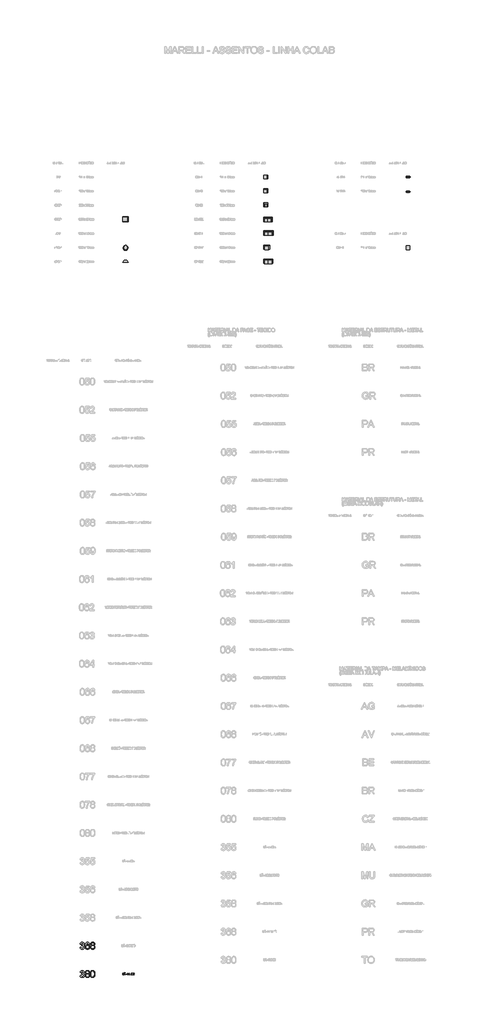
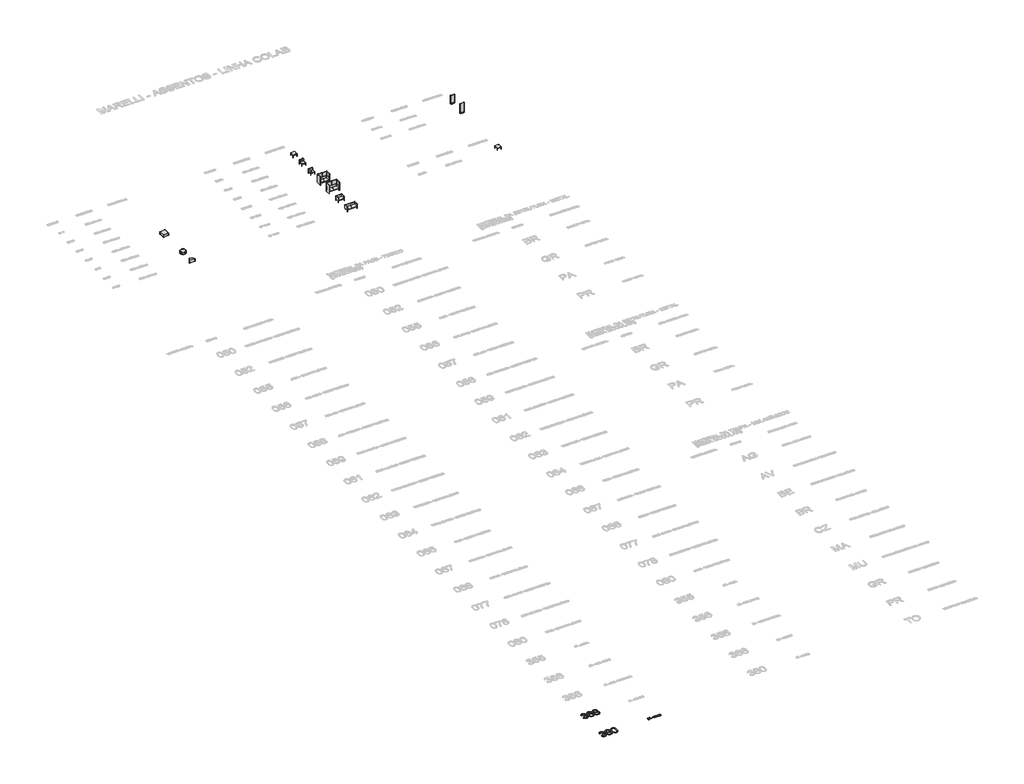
# One storey, part 1 of 67: 13 furniture elements, 3 proxies.
"""IFC4 building model written with IfcOpenShell, lengths in millimetres."""

from ifc_helpers import new_model, si_unit, origin, origin_with_axes, place, context, project, spatial, polyline, outline, extrude, transform, mapped, element, save
from components import furniture_c106df04, furniture_1e43df1f, furniture_dcf6a9ca, furniture_6dd9b92e, furniture_44890e2e, furniture_9de6bddc, furniture_e14ccfc3, furniture_0988fbb2, furniture_3d59b3a7, furniture_6b35aecf, furniture_aa8f4431, furniture_b8cf2368, furniture_f87f3754

model = new_model("IFC4")

# Units and contexts
model_context = context("Model", 3, world=origin())
ifc_project = project(units=[si_unit("LENGTHUNIT", "METRE", prefix="MILLI")], contexts=[model_context])

# Site, building, storey
site = spatial("IfcSite", under=ifc_project)
building = spatial("IfcBuilding", under=site)
storey = spatial("IfcBuildingStorey", under=building, Name="Marelli - Linha COLAB - Planta Baixa", Elevation=0.0)

# Proxies
placement = place(None, origin())
element("IfcBuildingElementProxy", 1, Name="1200mm Arial", ObjectType="1200mm Arial", at=placement, inside=storey, context=model_context, shape_type="SweptSolid", body=[
    extrude(outline(polyline([(-25181.1313792, -130168.6139517), (-25030.446914, -130149.7783935), (-25015.5384961, -130200.9691731), (-24996.712135, -130244.4712191), (-24973.9678307, -130280.2845313), (-24947.3055831, -130308.4091098), (-24916.1183869, -130329.6542951), (-24879.799237, -130344.8294274), (-24838.3481331, -130353.9345067), (-24791.7650755, -130356.9695332), (-24737.1713874, -130352.7940725), (-24688.4638113, -130340.2676906), (-24645.642347, -130319.3903874), (-24608.7069947, -130290.1621629), (-24578.9637354, -130254.7719149), (-24557.7185502, -130215.4085414), (-24544.971439, -130172.0720424), (-24540.722402, -130124.7624178), (-24544.9346508, -130079.7060705), (-24557.5713974, -130038.7148192), (-24578.6326416, -130001.7886639), (-24608.1183835, -129968.9276047), (-24644.0972426, -129941.9526574), (-24684.6378385, -129922.6848379), (-24729.7401711, -129911.1241462), (-24779.4042405, -129907.2705823), (-24827.0081706, -129911.3908606), (-24885.0599495, -129923.7516957), (-24868.2845305, -129773.0672304), (-24844.1514716, -129774.833064), (-24797.8167343, -129772.1291314), (-24753.87323, -129764.0173334), (-24712.3209587, -129750.49767), (-24673.1599203, -129731.5701414), (-24639.9401761, -129707.0324123), (-24616.2117874, -129676.6821477), (-24601.9747542, -129640.5193476), (-24597.2290765, -129598.5440119), (-24600.6687731, -129564.4689421), (-24610.9878631, -129533.465687), (-24628.1863464, -129505.5342465), (-24652.2642229, -129480.6746207), (-24681.768359, -129460.266367), (-24715.2456205, -129445.6890429), (-24752.6960076, -129436.9426485), (-24794.1195203, -129434.0271837), (-24835.4326683, -129436.9702397), (-24873.1405728, -129445.7994075), (-24907.2432338, -129460.5146873), (-24937.7406512, -129481.1160791), (-24963.878667, -129507.6035827), (-24984.903123, -129539.9771983), (-25000.8140193, -129578.2369258), (-25011.6113558, -129622.3827652), (-25162.2958211, -129603.5472071), (-25144.4351502, -129531.6078829), (-25117.9292524, -129468.2402092), (-25082.7781278, -129413.4441861), (-25038.9817763, -129367.2198134), (-24987.9197553, -129330.5235844), (-24930.9716225, -129304.3119922), (-24868.1373777, -129288.5850369), (-24799.417021, -129283.3427185), (-24751.0865239, -129285.9270895), (-24704.6874073, -129293.6802025), (-24660.2196711, -129306.6020576), (-24617.6833154, -129324.6926547), (-24578.5590652, -129347.2622151), (-24544.3276456, -129373.6209601), (-24514.9890564, -129403.7688896), (-24490.5432979, -129437.7060036), (-24471.2938725, -129474.0803359), (-24457.5442829, -129511.5399201), (-24449.2945291, -129550.0847561), (-24446.5446112, -129589.7148441), (-24449.1565734, -129626.9812902), (-24456.9924599, -129662.5554791), (-24470.0522707, -129696.4374109), (-24488.3360059, -129728.6270854), (-24511.7333008, -129758.3703447), (-24540.1337908, -129784.9130307), (-24573.537476, -129808.2551433), (-24611.9443563, -129828.3966825), (-24561.7284639, -129844.1052437), (-24517.6194127, -129866.5092572), (-24479.6172026, -129895.608723), (-24447.7218336, -129931.4036412), (-24422.4851288, -129973.0110948), (-24404.458911, -130019.5481672), (-24393.6431803, -130071.0148583), (-24390.0379368, -130127.4111682), (-24391.8405586, -130166.3882656), (-24397.2484239, -130203.8570468), (-24406.2615328, -130239.8175118), (-24418.8798852, -130274.2696607), (-24435.1034812, -130307.2134933), (-24454.9323207, -130338.6490098), (-24478.3664038, -130368.5762101), (-24505.4057305, -130396.9950943), (-24535.1995735, -130422.9307749), (-24566.897206, -130445.4083648), (-24600.4986277, -130464.427864), (-24636.0038388, -130479.9892724), (-24673.4128391, -130492.09259), (-24712.7256288, -130500.7378169), (-24753.9422079, -130505.924953), (-24797.0625762, -130507.6539984), (-24873.2877256, -130501.7494924), (-24908.8619146, -130494.3688599), (-24942.7438463, -130484.0359743), (-24974.9335209, -130470.7508358), (-25005.4309383, -130454.5134442), (-25034.2360985, -130435.3237996), (-25061.3490016, -130413.1819021), (-25086.2040289, -130388.6947568), (-25108.2355619, -130362.469369), (-25127.4436005, -130334.5057389), (-25143.8281449, -130304.8038663), (-25157.3891949, -130273.3637513), (-25168.1267507, -130240.1853938), (-25181.1313792, -130168.6139517)])), origin_with_axes(), (0.0, 0.0, 1.0), 10.0),
    extrude(outline(polyline([(-23485.9311454, -129603.5472071), (-23636.6156107, -129622.3827652), (-23647.6888587, -129582.0812927), (-23660.8958223, -129547.7027202), (-23676.2365015, -129519.2470479), (-23693.7108963, -129496.7142757), (-23726.102906, -129469.2886729), (-23762.063371, -129449.6989567), (-23801.5922914, -129437.9451269), (-23844.6896671, -129434.0271837), (-23880.2270679, -129436.3080521), (-23914.734399, -129443.1506572), (-23948.2116606, -129454.554999), (-23980.6588525, -129470.5210776), (-24010.2641561, -129496.6315022), (-24037.2758916, -129528.1681863), (-24061.694059, -129565.1311297), (-24083.5186584, -129607.5203326), (-24101.5908614, -129658.1316981), (-24114.7518398, -129719.7611293), (-24123.0015935, -129792.4086263), (-24126.3401226, -129876.0741891), (-24097.6177359, -129838.2099347), (-24065.8971108, -129805.5512106), (-24031.1782475, -129778.0980167), (-23993.461146, -129755.8503531), (-23953.7574816, -129738.6610669), (-23913.07893, -129726.3830053), (-23871.4254911, -129719.0161683), (-23828.7971649, -129716.560556), (-23791.8986008, -129718.2390176), (-23756.3979883, -129723.2744024), (-23722.2953273, -129731.6667104), (-23689.590618, -129743.4159416), (-23658.2838602, -129758.5220961), (-23628.375054, -129776.9851737), (-23599.8641993, -129798.8051745), (-23572.7512963, -129823.9820986), (-23547.9882395, -129851.81697), (-23526.5269236, -129881.6108131), (-23508.3673486, -129913.3636278), (-23493.5095145, -129947.0754142), (-23481.9534214, -129982.7461721), (-23473.6990691, -130020.3759017), (-23468.7464577, -130059.9646029), (-23467.0955873, -130101.5122757), (-23470.2041901, -130156.4462547), (-23479.5299987, -130209.4120649), (-23495.073013, -130260.4097065), (-23516.833233, -130309.4391794), (-23544.0381066, -130354.6702707), (-23575.9150814, -130394.2727675), (-23612.4641577, -130428.2466698), (-23653.6853352, -130456.5919775), (-23698.6956973, -130478.9316116), (-23746.6123272, -130494.8884932), (-23797.4352248, -130504.4626221), (-23851.1643902, -130507.6539984), (-23897.1657345, -130505.5386769), (-23940.9919764, -130499.1927125), (-23982.6431161, -130488.6161052), (-24022.1191534, -130473.8088549), (-24059.4200884, -130454.7709616), (-24094.5459212, -130431.5024254), (-24127.4966517, -130404.0032463), (-24158.2722798, -130372.2734242), (-24186.104852, -130335.6875598), (-24210.2264146, -130293.6202536), (-24230.6369675, -130246.0715057), (-24247.3365108, -130193.0413161), (-24260.3250445, -130134.5296848), (-24269.6025686, -130070.5366117), (-24275.169083, -130001.062097), (-24277.0245879, -129926.1061404), (-24274.9644487, -129842.1784618), (-24268.7840312, -129764.1828803), (-24258.4833353, -129692.1193959), (-24244.0623611, -129625.9880088), (-24225.5211085, -129565.7887188), (-24202.8595776, -129511.521526), (-24176.0777684, -129463.1864303), (-24145.1756808, -129420.7834319), (-24115.1611085, -129388.5707647), (-24082.6541357, -129360.6531198), (-24047.6547624, -129337.0304971), (-24010.1629886, -129317.7028968), (-23970.1788142, -129302.6703188), (-23927.7022393, -129291.9327631), (-23882.733264, -129285.4902296), (-23835.271888, -129283.3427185), (-23765.8709497, -129288.6586133), (-23703.055099, -129304.6062978), (-23646.824336, -129331.1857719), (-23597.1786608, -129368.3970358), (-23555.4608425, -129414.9892904), (-23523.0136505, -129469.7117372), (-23499.8370848, -129532.5643761), (-23485.9311454, -129603.5472071)]), holes=[polyline([(-24126.3401226, -130099.157831), (-24124.1604218, -130132.9202011), (-24117.6213193, -130165.9284131), (-24106.7228152, -130198.182467), (-24091.4649095, -130229.6823629), (-24072.5925631, -130258.9473756), (-24050.8507372, -130284.4967801), (-24026.2394317, -130306.3305766), (-23998.7586467, -130324.4487648), (-23968.5831261, -130338.676601), (-23935.8876137, -130348.8393411), (-23900.6721097, -130354.9369852), (-23862.9366141, -130356.9695332), (-23810.559415, -130352.7572843), (-23763.4981108, -130340.1205378), (-23721.7527014, -130319.0592936), (-23685.3231868, -130289.5735517), (-23655.7730656, -130252.8589286), (-23634.6658361, -130210.1110407), (-23622.0014984, -130161.3298882), (-23617.7800525, -130106.5154709), (-23621.9463161, -130053.8439662), (-23634.4451069, -130007.0769676), (-23655.2764249, -129966.214475), (-23684.44027, -129931.2564884), (-23720.9801492, -129903.2514715), (-23763.9395692, -129883.247888), (-23813.31853, -129871.2457379), (-23869.1170316, -129867.2450212), (-23920.7952549, -129871.2457379), (-23968.4083821, -129883.247888), (-24011.9564133, -129903.2514715), (-24051.4393484, -129931.2564884), (-24084.2084371, -129965.7546225), (-24107.6149291, -130005.2375576), (-24121.6588242, -130049.7052938), (-24126.3401226, -130099.157831)])]), origin_with_axes(), (0.0, 0.0, 1.0), 10.0),
    extrude(outline(polyline([(-23115.6947055, -129824.8650154), (-23159.0404016, -129806.7652212), (-23196.371227, -129785.1337599), (-23227.6871819, -129759.9706314), (-23252.9882661, -129731.2758358), (-23272.4952089, -129699.3252845), (-23286.4287394, -129664.3948891), (-23294.7888578, -129626.4846495), (-23297.5755639, -129585.5945657), (-23291.505511, -129524.1398784), (-23283.9179448, -129495.3301197), (-23273.2953522, -129467.7987509), (-23259.6377331, -129441.545772), (-23242.9450876, -129416.571183), (-23200.4547172, -129370.4571749), (-23175.1674285, -129350.0397242), (-23147.865986, -129332.3446002), (-23118.5503895, -129317.371803), (-23087.2206391, -129305.1213326), (-23018.5186765, -129288.787372), (-22941.7600982, -129283.3427185), (-22864.6336379, -129288.9161307), (-22795.4166405, -129305.6363674), (-22763.7741904, -129318.1765449), (-22734.109106, -129333.5034285), (-22706.4213873, -129351.6170182), (-22680.7110344, -129372.5173141), (-22637.4481118, -129419.5326331), (-22620.4519636, -129444.8613085), (-22606.5460242, -129471.4039944), (-22595.7302935, -129499.1606909), (-22588.0047716, -129528.1313981), (-22583.3694585, -129558.3161158), (-22581.8243541, -129589.7148441), (-22584.574272, -129629.160991), (-22592.8240257, -129665.9767817), (-22606.5736153, -129700.1622161), (-22625.8230407, -129731.7172942), (-22650.6642724, -129760.2189518), (-22681.189281, -129785.2441245), (-22717.3980664, -129806.7928124), (-22759.2906286, -129824.8650154), (-22709.764515, -129845.9354566), (-22666.5475776, -129872.6528865), (-22629.6398164, -129905.0173051), (-22599.0412315, -129943.0287122), (-22575.0277342, -129985.8409794), (-22557.8752362, -130032.607978), (-22547.5837374, -130083.3297081), (-22544.1532378, -130138.0061697), (-22545.854692, -130176.3670647), (-22550.9590547, -130213.1644613), (-22559.4663258, -130248.3983594), (-22571.3765054, -130282.068759), (-22586.6895935, -130314.1756601), (-22605.40559, -130344.7190628), (-22627.5244949, -130373.6989669), (-22653.0463083, -130401.1153726), (-22681.3456308, -130426.085363), (-22711.797063, -130447.7260214), (-22744.4006048, -130466.0373477), (-22779.1562563, -130481.019342), (-22816.0640175, -130492.6720042), (-22855.1238883, -130500.9953343), (-22896.3358688, -130505.9893324), (-22939.699959, -130507.6539984), (-22983.0640492, -130505.9824346), (-23024.2760297, -130500.9677432), (-23063.3359005, -130492.6099241), (-23100.2436617, -130480.9089774), (-23134.9993132, -130465.864903), (-23167.602855, -130447.4777011), (-23198.0542872, -130425.7473715), (-23226.3536096, -130400.6739142), (-23251.875423, -130373.1034579), (-23273.994328, -130343.8821312), (-23292.7103245, -130313.009934), (-23308.0234126, -130280.4868664), (-23319.9335922, -130246.3129283), (-23328.4408633, -130210.4881198), (-23333.545226, -130173.0124408), (-23335.2466802, -130133.8858913), (-23331.6782249, -130076.7170293), (-23320.9728588, -130024.4042096), (-23303.130582, -129976.9474322), (-23278.1513946, -129934.3466971), (-23246.5871194, -129897.3745566), (-23208.9895795, -129866.8035628), (-23165.3587748, -129842.6337157), (-23115.6947055, -129824.8650154)]), holes=[polyline([(-23146.8910987, -129590.0091496), (-23143.5525696, -129624.553269), (-23133.5369822, -129655.7864504), (-23116.8443367, -129683.7086938), (-23093.474633, -129708.3199993), (-23063.7221766, -129728.4063562), (-23027.8812732, -129742.753754), (-22985.9519228, -129751.3621927), (-22937.9341254, -129754.2316723), (-22891.1027474, -129751.3805868), (-22850.083905, -129742.8273304), (-22814.877598, -129728.5719031), (-22785.4838266, -129708.6143049), (-22762.3072609, -129684.5180342), (-22745.7525711, -129657.8465896), (-22735.8197573, -129628.5999709), (-22732.5088193, -129596.7781784), (-22735.9301219, -129563.714784), (-22746.1940295, -129533.3921106), (-22763.3005423, -129505.810158), (-22787.2496602, -129480.9689263), (-22817.3056192, -129460.4319139), (-22852.7326553, -129445.7626193), (-22893.5307686, -129436.9610426), (-22939.699959, -129434.0271837), (-22986.2278343, -129436.8966633), (-23027.2190856, -129445.5051019), (-23062.6737129, -129459.8524998), (-23092.5917162, -129479.9388567), (-23116.347696, -129504.0351274), (-23133.3162531, -129530.4122664), (-23143.4973873, -129559.0702739), (-23146.8910987, -129590.0091496)]), polyline([(-23184.562215, -130128.5883906), (-23182.9895195, -130157.6418712), (-23178.2714329, -130186.2354992), (-23159.3990865, -130242.0431979), (-23144.3986982, -130267.9328933), (-23124.5606616, -130290.7139859), (-23099.8849767, -130310.3864756), (-23070.3716437, -130326.9503624), (-23038.1819691, -130340.0837496), (-23005.4772597, -130349.4647405), (-22972.2575156, -130355.093335), (-22938.5227366, -130356.9695332), (-22884.0394131, -130353.0239988), (-22835.9572364, -130341.1873956), (-22794.2762063, -130321.4597236), (-22758.996323, -130293.8409828), (-22730.9269267, -130260.133795), (-22710.877358, -130222.140782), (-22698.8476167, -130179.8619437), (-22694.837703, -130133.2972801), (-22698.9763754, -130085.9876555), (-22711.3923928, -130042.9454621), (-22732.085755, -130004.1706998), (-22761.0564621, -129969.6633687), (-22797.2928387, -129941.336455), (-22839.7832091, -129921.1029453), (-22888.5275735, -129908.9628395), (-22943.5259317, -129904.9161375), (-22997.2091119, -129908.9076572), (-23044.6566922, -129920.8822161), (-23085.8686727, -129940.8398143), (-23120.8450534, -129968.7804519), (-23148.7213116, -130002.7175659), (-23168.6329246, -130040.6645937), (-23180.5798924, -130082.6215353), (-23184.562215, -130128.5883906)])]), origin_with_axes(), (0.0, 0.0, 1.0), 10.0),
])
element("IfcBuildingElementProxy", 2, Name="1200mm Arial", ObjectType="1200mm Arial", at=placement, inside=storey, context=model_context, shape_type="SweptSolid", body=[
    extrude(outline(polyline([(-25181.1313792, -135168.6139517), (-25030.446914, -135149.7783935), (-25015.5384961, -135200.9691731), (-24996.712135, -135244.4712191), (-24973.9678307, -135280.2845313), (-24947.3055831, -135308.4091098), (-24916.1183869, -135329.6542951), (-24879.799237, -135344.8294274), (-24838.3481331, -135353.9345067), (-24791.7650755, -135356.9695332), (-24737.1713874, -135352.7940725), (-24688.4638113, -135340.2676906), (-24645.642347, -135319.3903874), (-24608.7069947, -135290.1621629), (-24578.9637354, -135254.7719149), (-24557.7185502, -135215.4085414), (-24544.971439, -135172.0720424), (-24540.722402, -135124.7624178), (-24544.9346508, -135079.7060705), (-24557.5713974, -135038.7148192), (-24578.6326416, -135001.7886639), (-24608.1183835, -134968.9276047), (-24644.0972426, -134941.9526574), (-24684.6378385, -134922.6848379), (-24729.7401711, -134911.1241462), (-24779.4042405, -134907.2705823), (-24827.0081706, -134911.3908606), (-24885.0599495, -134923.7516957), (-24868.2845305, -134773.0672304), (-24844.1514716, -134774.833064), (-24797.8167343, -134772.1291314), (-24753.87323, -134764.0173334), (-24712.3209587, -134750.49767), (-24673.1599203, -134731.5701414), (-24639.9401761, -134707.0324123), (-24616.2117874, -134676.6821477), (-24601.9747542, -134640.5193476), (-24597.2290765, -134598.5440119), (-24600.6687731, -134564.4689421), (-24610.9878631, -134533.465687), (-24628.1863464, -134505.5342465), (-24652.2642229, -134480.6746207), (-24681.768359, -134460.266367), (-24715.2456205, -134445.6890429), (-24752.6960076, -134436.9426485), (-24794.1195203, -134434.0271837), (-24835.4326683, -134436.9702397), (-24873.1405728, -134445.7994075), (-24907.2432338, -134460.5146873), (-24937.7406512, -134481.1160791), (-24963.878667, -134507.6035827), (-24984.903123, -134539.9771983), (-25000.8140193, -134578.2369258), (-25011.6113558, -134622.3827652), (-25162.2958211, -134603.5472071), (-25144.4351502, -134531.6078829), (-25117.9292524, -134468.2402092), (-25082.7781278, -134413.4441861), (-25038.9817763, -134367.2198134), (-24987.9197553, -134330.5235844), (-24930.9716225, -134304.3119922), (-24868.1373777, -134288.5850369), (-24799.417021, -134283.3427185), (-24751.0865239, -134285.9270895), (-24704.6874073, -134293.6802025), (-24660.2196711, -134306.6020576), (-24617.6833154, -134324.6926547), (-24578.5590652, -134347.2622151), (-24544.3276456, -134373.6209601), (-24514.9890564, -134403.7688896), (-24490.5432979, -134437.7060036), (-24471.2938725, -134474.0803359), (-24457.5442829, -134511.5399201), (-24449.2945291, -134550.0847561), (-24446.5446112, -134589.7148441), (-24449.1565734, -134626.9812902), (-24456.9924599, -134662.5554791), (-24470.0522707, -134696.4374109), (-24488.3360059, -134728.6270854), (-24511.7333008, -134758.3703447), (-24540.1337908, -134784.9130307), (-24573.537476, -134808.2551433), (-24611.9443563, -134828.3966825), (-24561.7284639, -134844.1052437), (-24517.6194127, -134866.5092572), (-24479.6172026, -134895.608723), (-24447.7218336, -134931.4036412), (-24422.4851288, -134973.0110948), (-24404.458911, -135019.5481672), (-24393.6431803, -135071.0148583), (-24390.0379368, -135127.4111682), (-24391.8405586, -135166.3882656), (-24397.2484239, -135203.8570468), (-24406.2615328, -135239.8175118), (-24418.8798852, -135274.2696607), (-24435.1034812, -135307.2134933), (-24454.9323207, -135338.6490098), (-24478.3664038, -135368.5762101), (-24505.4057305, -135396.9950943), (-24535.1995735, -135422.9307749), (-24566.897206, -135445.4083648), (-24600.4986277, -135464.427864), (-24636.0038388, -135479.9892724), (-24673.4128391, -135492.09259), (-24712.7256288, -135500.7378169), (-24753.9422079, -135505.924953), (-24797.0625762, -135507.6539984), (-24873.2877256, -135501.7494924), (-24908.8619146, -135494.3688599), (-24942.7438463, -135484.0359743), (-24974.9335209, -135470.7508358), (-25005.4309383, -135454.5134442), (-25034.2360985, -135435.3237996), (-25061.3490016, -135413.1819021), (-25086.2040289, -135388.6947568), (-25108.2355619, -135362.469369), (-25127.4436005, -135334.5057389), (-25143.8281449, -135304.8038663), (-25157.3891949, -135273.3637513), (-25168.1267507, -135240.1853938), (-25181.1313792, -135168.6139517)])), origin_with_axes(), (0.0, 0.0, 1.0), 10.0),
    extrude(outline(polyline([(-24038.637055, -134824.8650154), (-24081.9827511, -134806.7652212), (-24119.3135765, -134785.1337599), (-24150.6295314, -134759.9706314), (-24175.9306156, -134731.2758358), (-24195.4375584, -134699.3252845), (-24209.3710889, -134664.3948891), (-24217.7312073, -134626.4846495), (-24220.5179134, -134585.5945657), (-24214.4478605, -134524.1398784), (-24206.8602943, -134495.3301197), (-24196.2377017, -134467.7987509), (-24182.5800826, -134441.545772), (-24165.8874371, -134416.571183), (-24123.3970667, -134370.4571749), (-24098.109778, -134350.0397242), (-24070.8083355, -134332.3446002), (-24041.492739, -134317.371803), (-24010.1629886, -134305.1213326), (-23941.461026, -134288.787372), (-23864.7024477, -134283.3427185), (-23787.5759874, -134288.9161307), (-23718.35899, -134305.6363674), (-23686.7165399, -134318.1765449), (-23657.0514555, -134333.5034285), (-23629.3637368, -134351.6170182), (-23603.6533839, -134372.5173141), (-23560.3904613, -134419.5326331), (-23543.3943131, -134444.8613085), (-23529.4883737, -134471.4039944), (-23518.672643, -134499.1606909), (-23510.9471211, -134528.1313981), (-23506.311808, -134558.3161158), (-23504.7667036, -134589.7148441), (-23507.5166215, -134629.160991), (-23515.7663752, -134665.9767817), (-23529.5159648, -134700.1622161), (-23548.7653902, -134731.7172942), (-23573.6066219, -134760.2189518), (-23604.1316305, -134785.2441245), (-23640.3404159, -134806.7928124), (-23682.2329781, -134824.8650154), (-23632.7068645, -134845.9354566), (-23589.4899271, -134872.6528865), (-23552.5821659, -134905.0173051), (-23521.983581, -134943.0287122), (-23497.9700837, -134985.8409794), (-23480.8175857, -135032.607978), (-23470.5260869, -135083.3297081), (-23467.0955873, -135138.0061697), (-23468.7970415, -135176.3670647), (-23473.9014042, -135213.1644613), (-23482.4086753, -135248.3983594), (-23494.3188549, -135282.068759), (-23509.631943, -135314.1756601), (-23528.3479395, -135344.7190628), (-23550.4668444, -135373.6989669), (-23575.9886578, -135401.1153726), (-23604.2879803, -135426.085363), (-23634.7394125, -135447.7260214), (-23667.3429543, -135466.0373477), (-23702.0986058, -135481.019342), (-23739.006367, -135492.6720042), (-23778.0662378, -135500.9953343), (-23819.2782183, -135505.9893324), (-23862.6423085, -135507.6539984), (-23906.0063987, -135505.9824346), (-23947.2183792, -135500.9677432), (-23986.27825, -135492.6099241), (-24023.1860112, -135480.9089774), (-24057.9416627, -135465.864903), (-24090.5452045, -135447.4777011), (-24120.9966367, -135425.7473715), (-24149.2959591, -135400.6739142), (-24174.8177725, -135373.1034579), (-24196.9366775, -135343.8821312), (-24215.652674, -135313.009934), (-24230.9657621, -135280.4868664), (-24242.8759417, -135246.3129283), (-24251.3832128, -135210.4881198), (-24256.4875755, -135173.0124408), (-24258.1890297, -135133.8858913), (-24254.6205744, -135076.7170293), (-24243.9152083, -135024.4042096), (-24226.0729315, -134976.9474322), (-24201.0937441, -134934.3466971), (-24169.5294689, -134897.3745566), (-24131.931929, -134866.8035628), (-24088.3011243, -134842.6337157), (-24038.637055, -134824.8650154)]), holes=[polyline([(-24069.8334482, -134590.0091496), (-24066.4949191, -134624.553269), (-24056.4793317, -134655.7864504), (-24039.7866862, -134683.7086938), (-24016.4169825, -134708.3199993), (-23986.6645261, -134728.4063562), (-23950.8236227, -134742.753754), (-23908.8942723, -134751.3621927), (-23860.8764749, -134754.2316723), (-23814.0450969, -134751.3805868), (-23773.0262545, -134742.8273304), (-23737.8199475, -134728.5719031), (-23708.4261761, -134708.6143049), (-23685.2496104, -134684.5180342), (-23668.6949206, -134657.8465896), (-23658.7621068, -134628.5999709), (-23655.4511688, -134596.7781784), (-23658.8724714, -134563.714784), (-23669.136379, -134533.3921106), (-23686.2428918, -134505.810158), (-23710.1920097, -134480.9689263), (-23740.2479687, -134460.4319139), (-23775.6750048, -134445.7626193), (-23816.4731181, -134436.9610426), (-23862.6423085, -134434.0271837), (-23909.1701838, -134436.8966633), (-23950.1614351, -134445.5051019), (-23985.6160624, -134459.8524998), (-24015.5340657, -134479.9388567), (-24039.2900455, -134504.0351274), (-24056.2586026, -134530.4122664), (-24066.4397368, -134559.0702739), (-24069.8334482, -134590.0091496)]), polyline([(-24107.5045645, -135128.5883906), (-24105.931869, -135157.6418712), (-24101.2137824, -135186.2354992), (-24082.341436, -135242.0431979), (-24067.3410477, -135267.9328933), (-24047.5030111, -135290.7139859), (-24022.8273262, -135310.3864756), (-23993.3139932, -135326.9503624), (-23961.1243186, -135340.0837496), (-23928.4196092, -135349.4647405), (-23895.1998651, -135355.093335), (-23861.4650861, -135356.9695332), (-23806.9817626, -135353.0239988), (-23758.8995859, -135341.1873956), (-23717.2185558, -135321.4597236), (-23681.9386725, -135293.8409828), (-23653.8692762, -135260.133795), (-23633.8197075, -135222.140782), (-23621.7899662, -135179.8619437), (-23617.7800525, -135133.2972801), (-23621.9187249, -135085.9876555), (-23634.3347423, -135042.9454621), (-23655.0281045, -135004.1706998), (-23683.9988116, -134969.6633687), (-23720.2351882, -134941.336455), (-23762.7255586, -134921.1029453), (-23811.469923, -134908.9628395), (-23866.4682812, -134904.9161375), (-23920.1514614, -134908.9076572), (-23967.5990417, -134920.8822161), (-24008.8110222, -134940.8398143), (-24043.7874029, -134968.7804519), (-24071.6636611, -135002.7175659), (-24091.5752741, -135040.6645937), (-24103.5222419, -135082.6215353), (-24107.5045645, -135128.5883906)])]), origin_with_axes(), (0.0, 0.0, 1.0), 10.0),
    extrude(outline(polyline([(-23335.2466802, -134895.792664), (-23332.4783682, -134794.4319773), (-23324.1734322, -134702.8385576), (-23310.3318721, -134621.0124048), (-23290.953688, -134548.953519), (-23266.1216533, -134486.073289), (-23235.9185415, -134431.7831035), (-23200.3443526, -134386.0829627), (-23159.3990865, -134348.9728664), (-23112.9447876, -134320.2596767), (-23060.8435, -134299.7502555), (-23003.0952238, -134287.4446027), (-22939.699959, -134283.3427185), (-22892.0592406, -134285.7707396), (-22846.8465434, -134293.0548031), (-22804.0618674, -134305.194909), (-22763.7052125, -134322.1910572), (-22726.7514661, -134343.7581391), (-22694.1755154, -134369.6110463), (-22665.9773605, -134399.7497788), (-22642.1570013, -134434.1743365), (-22621.5188214, -134472.7467637), (-22602.8672042, -134515.3291046), (-22571.5236582, -134612.5235278), (-22559.5490993, -134669.6831928), (-22550.9958429, -134735.9479371), (-22545.8638891, -134811.3177609), (-22544.1532378, -134895.792664), (-22546.8939586, -134996.5095573), (-22555.1161212, -135087.6431245), (-22568.8197256, -135169.1933658), (-22588.0047716, -135241.1602811), (-22612.6436682, -135304.0681023), (-22642.7088243, -135358.4410612), (-22678.2002398, -135404.2791578), (-22719.1179147, -135441.5823921), (-22765.6273959, -135470.4887199), (-22817.8942304, -135491.1360968), (-22875.9184181, -135503.524523), (-22939.699959, -135507.6539984), (-22982.3742704, -135505.8605737), (-23022.6941371, -135500.4802995), (-23060.659559, -135491.5131759), (-23096.2705361, -135478.9592028), (-23129.5270685, -135462.8183803), (-23160.4291561, -135443.0907083), (-23188.9767989, -135419.7761868), (-23215.169997, -135392.8748159), (-23243.3129696, -135350.2786794), (-23267.7035459, -135302.0999336), (-23288.3417258, -135248.3385785), (-23305.2275094, -135188.9946142), (-23318.3608966, -135124.0680406), (-23327.7418875, -135053.5588577), (-23333.370482, -134977.4670655), (-23335.2466802, -134895.792664)]), holes=[polyline([(-23184.562215, -134895.4983584), (-23180.147631, -135026.4919399), (-23166.9038792, -135132.5247279), (-23156.9710653, -135176.1808245), (-23144.8309595, -135213.5967226), (-23130.4835617, -135244.7724225), (-23113.9288719, -135269.7079239), (-23076.5520612, -135307.884878), (-23035.0549721, -135335.1541309), (-22989.4376047, -135351.5156826), (-22939.699959, -135356.9695332), (-22889.9623132, -135351.4972885), (-22844.3449458, -135335.0805545), (-22802.8478568, -135307.7193311), (-22765.4710461, -135269.4136183), (-22748.9163563, -135244.418336), (-22734.5689585, -135213.2104465), (-22722.4288526, -135175.7899498), (-22712.4960388, -135132.1568459), (-22699.2522869, -135026.2528166), (-22694.837703, -134895.4983584), (-22699.1051341, -134767.9720648), (-22711.9074276, -134663.8062779), (-22721.5091477, -134620.4835744), (-22733.2445833, -134583.0009976), (-22747.1137345, -134551.3585475), (-22763.1166013, -134525.5562241), (-22799.8680126, -134485.5122689), (-22841.8433483, -134456.9094438), (-22889.0426083, -134439.7477487), (-22941.4657926, -134434.0271837), (-22990.9459209, -134439.067167), (-23035.7907361, -134454.187117), (-23076.0002382, -134479.3870337), (-23111.5744271, -134514.666917), (-23128.6809399, -134543.2145599), (-23143.5065843, -134577.2068562), (-23156.0513604, -134616.6438061), (-23166.315268, -134661.5254095), (-23180.0004782, -134767.6225769), (-23184.562215, -134895.4983584)])]), origin_with_axes(), (0.0, 0.0, 1.0), 10.0),
])
element("IfcBuildingElementProxy", 3, Name="300mm Arial", ObjectType="300mm Arial", at=placement, inside=storey, context=model_context, shape_type="SweptSolid", body=[
    extrude(outline(polyline([(-17598.7258123, -135030.5663201), (-17598.7258123, -134729.1973896), (-17561.054696, -134729.1973896), (-17561.054696, -134992.8952038), (-17410.3702308, -134992.8952038), (-17410.3702308, -135030.5663201), (-17598.7258123, -135030.5663201)])), origin_with_axes(), (0.0, 0.0, 1.0), 10.0),
    extrude(outline(polyline([(-17325.6102191, -134710.3618315), (-17322.7591336, -134687.2036599), (-17313.9115716, -134669.2326244), (-17300.5758493, -134657.6995239), (-17283.9659772, -134653.855157), (-17270.0600378, -134656.8901835), (-17253.7996536, -134665.9952628), (-17238.569339, -134672.6907152), (-17230.5862997, -134668.9015306), (-17226.7235388, -134653.855157), (-17193.761312, -134653.855157), (-17197.0446588, -134678.5768271), (-17205.7174768, -134696.2351629), (-17218.6209378, -134706.8301643), (-17234.5962135, -134710.3618315), (-17248.5941234, -134707.4923519), (-17264.3946551, -134698.8839132), (-17280.2871573, -134691.5262733), (-17289.2634779, -134696.3087393), (-17292.6479923, -134710.3618315), (-17325.6102191, -134710.3618315)])), origin_with_axes(), (0.0, 0.0, 1.0), 10.0),
    extrude(outline(polyline([(-17403.0861672, -135030.5663201), (-17282.7887548, -134729.1973896), (-17250.7094448, -134729.1973896), (-17130.4120324, -135030.5663201), (-17170.2168643, -135030.5663201), (-17204.7241955, -134936.3885293), (-17328.8475806, -134936.3885293), (-17363.2813354, -135030.5663201), (-17403.0861672, -135030.5663201)]), holes=[polyline([(-17315.0152176, -134898.717413), (-17218.4829821, -134898.717413), (-17245.6326733, -134824.6259792), (-17266.7490998, -134766.8685059), (-17285.5110816, -134818.1512561), (-17315.0152176, -134898.717413)])]), origin_with_axes(), (0.0, 0.0, 1.0), 10.0),
    extrude(outline(polyline([(-16995.9879514, -134941.0974188), (-16995.9879514, -134903.4263025), (-16878.2657129, -134903.4263025), (-16878.2657129, -134941.0974188), (-16995.9879514, -134941.0974188)])), origin_with_axes(), (0.0, 0.0, 1.0), 10.0),
    extrude(outline(polyline([(-16713.4545791, -135030.5663201), (-16713.4545791, -134729.1973896), (-16583.5922348, -134729.1973896), (-16548.6894305, -134731.2299376), (-16523.2963758, -134737.3275817), (-16504.7367291, -134748.5847708), (-16490.334149, -134766.0959537), (-16481.0911139, -134787.8101885), (-16478.0101022, -134811.6765329), (-16483.1144649, -134841.3646099), (-16498.4275529, -134865.9759154), (-16510.0273321, -134876.0052983), (-16524.4092188, -134884.0205273), (-16561.5193151, -134894.0085235), (-16540.108583, -134910.1217548), (-16509.5743774, -134948.8965171), (-16459.3216968, -135030.5663201), (-16503.0996542, -135030.5663201), (-16542.3158749, -134968.0999573), (-16570.6427886, -134926.750021), (-16590.5452045, -134907.2154871), (-16608.4610577, -134900.0417882), (-16630.3132482, -134898.717413), (-16675.7834628, -134898.717413), (-16675.7834628, -135030.5663201), (-16713.4545791, -135030.5663201)]), holes=[polyline([(-16675.7834628, -134861.0462967), (-16591.4649095, -134861.0462967), (-16567.2490772, -134859.7127245), (-16548.4595043, -134855.7120078), (-16534.3144415, -134848.7774322), (-16524.0321398, -134838.6422832), (-16517.7689488, -134826.3826157), (-16515.6812185, -134813.0744845), (-16519.6635411, -134794.6987789), (-16531.6105089, -134779.8915286), (-16552.1659154, -134770.1242616), (-16581.973554, -134766.8685059), (-16675.7834628, -134766.8685059), (-16675.7834628, -134861.0462967)])]), origin_with_axes(), (0.0, 0.0, 1.0), 10.0),
    extrude(outline(polyline([(-16426.2123173, -134883.8549804), (-16423.7015226, -134848.5061192), (-16416.1691388, -134817.213157), (-16403.6151657, -134789.9760937), (-16386.0396034, -134766.7949295), (-16364.495514, -134748.2858666), (-16340.0359599, -134735.0651074), (-16312.6609409, -134727.1326519), (-16282.3704571, -134724.4885001), (-16242.8415368, -134729.454907), (-16207.3961065, -134744.3541278), (-16177.9655469, -134768.1376988), (-16156.4812384, -134799.7571563), (-16143.3478512, -134837.68579), (-16138.9700554, -134880.3968896), (-16143.5777774, -134923.6782064), (-16157.4009434, -134962.140269), (-16179.6761982, -134993.8149087), (-16209.6401867, -135016.733957), (-16244.7821143, -135030.6398965), (-16282.5911863, -135035.2752096), (-16322.727112, -135030.1524528), (-16358.3748773, -135014.7841825), (-16387.7318606, -134990.5591531), (-16408.9954399, -134958.8661192), (-16421.9080979, -134922.3998164), (-16426.2123173, -134883.8549804)]), holes=[polyline([(-16388.541201, -134884.2228624), (-16386.658105, -134909.1974513), (-16381.0088171, -134931.3669401), (-16371.5933373, -134950.7313286), (-16358.4116655, -134967.2906169), (-16342.3881054, -134980.5527628), (-16324.4469603, -134990.0257242), (-16304.5882304, -134995.709501), (-16282.8119155, -134997.6040933), (-16260.6631202, -134995.6911069), (-16240.5698654, -134989.9521478), (-16222.5321514, -134980.3872159), (-16206.5499779, -134966.9963113), (-16193.4648752, -134950.0875351), (-16184.1183733, -134929.9689885), (-16178.5104721, -134906.6406715), (-16176.6411717, -134880.102584), (-16179.8417451, -134846.7540812), (-16189.4434652, -134817.9305269), (-16205.1980116, -134794.358488), (-16226.8570641, -134776.7645316), (-16252.9858828, -134765.8108452), (-16282.1497279, -134762.1596164), (-16303.1695854, -134763.9185522), (-16322.6719297, -134769.1953595), (-16340.6567608, -134777.9900385), (-16357.1240786, -134790.302589), (-16370.8690696, -134806.7262208), (-16380.6869204, -134827.8541437), (-16386.5776308, -134853.6863575), (-16388.541201, -134884.2228624)])]), origin_with_axes(), (0.0, 0.0, 1.0), 10.0),
    extrude(outline(polyline([(-16101.2989391, -134926.9707502), (-16063.6278228, -134926.9707502), (-16059.3052094, -134947.8756446), (-16051.487717, -134964.6786547), (-16039.2924288, -134978.0143771), (-16021.8364282, -134988.517408), (-16000.4992724, -134995.332422), (-15976.6605192, -134997.6040933), (-15955.6728513, -134995.884245), (-15937.2971457, -134990.7247), (-15922.4071219, -134982.5577197), (-15911.8764998, -134971.8155654), (-15905.6133088, -134959.4823216), (-15903.5255785, -134946.5420724), (-15905.089077, -134933.932917), (-15909.7795724, -134923.0344129), (-15919.3077161, -134913.7361954), (-15935.3841593, -134905.9279001), (-15990.2353648, -134891.5437141), (-16026.2418151, -134882.0247675), (-16049.280425, -134872.9656733), (-16068.0332097, -134860.2921386), (-16081.3229468, -134844.9330653), (-16089.2416067, -134827.2195472), (-16091.88116, -134807.4826782), (-16088.6162073, -134785.4189555), (-16078.8213492, -134764.845155), (-16062.7541031, -134747.4075484), (-16040.6719863, -134734.7524077), (-16014.1660886, -134727.054477), (-15984.8274994, -134724.4885001), (-15953.0424951, -134727.1740386), (-15925.2306162, -134735.2306543), (-15902.3851443, -134748.4928003), (-15885.4993607, -134766.7949295), (-15874.8123888, -134788.9966079), (-15870.5633517, -134813.9574013), (-15908.234468, -134813.9574013), (-15915.1506496, -134791.4798114), (-15929.5716238, -134775.2562154), (-15952.104396, -134765.4337661), (-15983.3559715, -134762.1596164), (-16015.3433109, -134765.3969779), (-16037.287472, -134775.1090626), (-16049.9794008, -134789.4012781), (-16054.2100437, -134806.3790322), (-16051.2118055, -134820.8551887), (-16042.2170907, -134832.4986539), (-16020.9535114, -134842.9097143), (-15980.7072211, -134853.541504), (-15939.1733438, -134863.6398648), (-15914.0470036, -134872.4506385), (-15892.5718921, -134886.1174547), (-15877.5898978, -134902.9848441), (-15868.7883211, -134922.868866), (-15865.8544622, -134945.5855792), (-15869.2297795, -134968.8081301), (-15879.3557314, -134990.6511236), (-15895.8184507, -135009.4498935), (-15918.2040701, -135023.539774), (-15945.1238351, -135032.3413507), (-15975.1889912, -135035.2752096), (-16012.0967523, -135032.1114244), (-16042.4746081, -135022.620069), (-16066.6720463, -135006.764355), (-16085.0385549, -134984.5074943), (-16096.8291729, -134957.3945912), (-16101.2989391, -134926.9707502)])), origin_with_axes(), (0.0, 0.0, 1.0), 10.0),
    extrude(outline(polyline([(-15809.3477877, -135030.5663201), (-15809.3477877, -134729.1973896), (-15592.738869, -134729.1973896), (-15592.738869, -134766.8685059), (-15771.6766714, -134766.8685059), (-15771.6766714, -134856.3374072), (-15602.1566481, -134856.3374072), (-15602.1566481, -134894.0085235), (-15771.6766714, -134894.0085235), (-15771.6766714, -134992.8952038), (-15588.0299794, -134992.8952038), (-15588.0299794, -135030.5663201), (-15809.3477877, -135030.5663201)])), origin_with_axes(), (0.0, 0.0, 1.0), 10.0),
])

# Furniture
furniture_shape = furniture_c106df04(model_context)
element("IfcFurniture", 4, ObjectType="Puff - COLAB - 04 SP : Puff - COLAB - 04 SP", at=placement, inside=storey, context=model_context, shape_type="MappedRepresentation", body=[
    mapped(furniture_shape, transform((-17598.0867854, -1580.5663201, 0.0), x_axis=(1.0, 0.0, 0.0), y_axis=(0.0, 1.0, 0.0), z_axis=(0.0, 0.0, 1.0))),
])
furniture_2_shape = furniture_1e43df1f(model_context)
element("IfcFurniture", 5, ObjectType="Puff - COLAB - 06 SP : Puff - COLAB - 06 SP", at=placement, inside=storey, context=model_context, shape_type="MappedRepresentation", body=[
    mapped(furniture_2_shape, transform((-17098.0867854, -6180.5663201, 0.0), x_axis=(1.0, 0.0, 0.0), y_axis=(0.0, 1.0, 0.0), z_axis=(0.0, 0.0, 1.0))),
])
furniture_3_shape = furniture_dcf6a9ca(model_context)
element("IfcFurniture", 6, ObjectType="Puff - COLAB - 07 SP : Puff - COLAB - 07 SP", at=placement, inside=storey, context=model_context, shape_type="MappedRepresentation", body=[
    mapped(furniture_3_shape, transform((-17598.0867854, -8780.5663201, 0.0), x_axis=(1.0, 0.0, 0.0), y_axis=(0.0, 1.0, 0.0), z_axis=(0.0, 0.0, 1.0))),
])
furniture_4_shape = furniture_6dd9b92e(model_context)
element("IfcFurniture", 7, ObjectType="Sofá Modular - COLAB - SM 01 : Sofá Modular - COLAB - SM 01", at=placement, inside=storey, context=model_context, shape_type="MappedRepresentation", body=[
    mapped(furniture_4_shape, transform((7401.9132146, 6019.4336799, 0.0), x_axis=(1.0, 0.0, 0.0), y_axis=(0.0, 1.0, 0.0), z_axis=(0.0, 0.0, 1.0))),
])
furniture_5_shape = furniture_44890e2e(model_context)
element("IfcFurniture", 8, ObjectType="Sofá Modular - COLAB - SM 02 : Sofá Modular - COLAB - SM 02", at=placement, inside=storey, context=model_context, shape_type="MappedRepresentation", body=[
    mapped(furniture_5_shape, transform((7401.9132146, 3619.4336799, 0.0), x_axis=(1.0, 0.0, 0.0), y_axis=(0.0, 1.0, 0.0), z_axis=(0.0, 0.0, 1.0))),
])
furniture_6_shape = furniture_9de6bddc(model_context)
element("IfcFurniture", 9, ObjectType="Sofá Modular - COLAB - SM 03 : Sofá Modular - COLAB - SM 03", at=placement, inside=storey, context=model_context, shape_type="MappedRepresentation", body=[
    mapped(furniture_6_shape, transform((7401.9132146, 1119.4336799, 0.0), x_axis=(1.0, 0.0, 0.0), y_axis=(0.0, 1.0, 0.0), z_axis=(0.0, 0.0, 1.0))),
])
furniture_7_shape = furniture_e14ccfc3(model_context)
element("IfcFurniture", 10, ObjectType="Sofá - COLAB - SE 1400 : Sofá - COLAB - SE 1400", at=placement, inside=storey, context=model_context, shape_type="MappedRepresentation", body=[
    mapped(furniture_7_shape, transform((7401.9132146, -1580.5663201, 0.0), x_axis=(1.0, 0.0, 0.0), y_axis=(0.0, 1.0, 0.0), z_axis=(0.0, 0.0, 1.0))),
])
furniture_8_shape = furniture_0988fbb2(model_context)
element("IfcFurniture", 11, ObjectType="Sofá - COLAB - SE 1600 : Sofá - COLAB - SE 1600", at=placement, inside=storey, context=model_context, shape_type="MappedRepresentation", body=[
    mapped(furniture_8_shape, transform((7401.9132146, -3980.5663201, 0.0), x_axis=(1.0, 0.0, 0.0), y_axis=(0.0, 1.0, 0.0), z_axis=(0.0, 0.0, 1.0))),
])
furniture_9_shape = furniture_3d59b3a7(model_context)
element("IfcFurniture", 12, ObjectType="Sofá - COLAB - SF1000 : Sofá - COLAB - SF1000", at=placement, inside=storey, context=model_context, shape_type="MappedRepresentation", body=[
    mapped(furniture_9_shape, transform((7401.9132146, -6480.5663201, 0.0), x_axis=(1.0, 0.0, 0.0), y_axis=(0.0, 1.0, 0.0), z_axis=(0.0, 0.0, 1.0))),
])
furniture_10_shape = furniture_6b35aecf(model_context)
element("IfcFurniture", 13, ObjectType="Sofá - COLAB - SF1600 : Sofá - COLAB - SF1600", at=placement, inside=storey, context=model_context, shape_type="MappedRepresentation", body=[
    mapped(furniture_10_shape, transform((7401.9132146, -8980.5663201, 0.0), x_axis=(1.0, 0.0, 0.0), y_axis=(0.0, 1.0, 0.0), z_axis=(0.0, 0.0, 1.0))),
])
furniture_11_shape = furniture_aa8f4431(model_context)
element("IfcFurniture", 14, ObjectType="Divisor - COLAB - DA 0714 : Divisor - COLAB - DA 0714", at=placement, inside=storey, context=model_context, shape_type="MappedRepresentation", body=[
    mapped(furniture_11_shape, transform((32601.9132146, 6219.4336799, 0.0), x_axis=(1.0, 0.0, 0.0), y_axis=(0.0, 1.0, 0.0), z_axis=(0.0, 0.0, 1.0))),
])
furniture_12_shape = furniture_b8cf2368(model_context)
element("IfcFurniture", 15, ObjectType="Divisor - COLAB - DA 0716 : Divisor - COLAB - DA 0716", at=placement, inside=storey, context=model_context, shape_type="MappedRepresentation", body=[
    mapped(furniture_12_shape, transform((32601.9132146, 3619.4336799, 0.0), x_axis=(1.0, 0.0, 0.0), y_axis=(0.0, 1.0, 0.0), z_axis=(0.0, 0.0, 1.0))),
])
furniture_13_shape = furniture_f87f3754(model_context)
element("IfcFurniture", 16, ObjectType="Mesa Modular - COLAB - SM 04 : Mesa Modular - COLAB - SM 04", at=placement, inside=storey, context=model_context, shape_type="MappedRepresentation", body=[
    mapped(furniture_13_shape, transform((32601.9132146, -6480.5663201, 0.0), x_axis=(1.0, 0.0, 0.0), y_axis=(0.0, 1.0, 0.0), z_axis=(0.0, 0.0, 1.0))),
])

save(model, "model.ifc")
